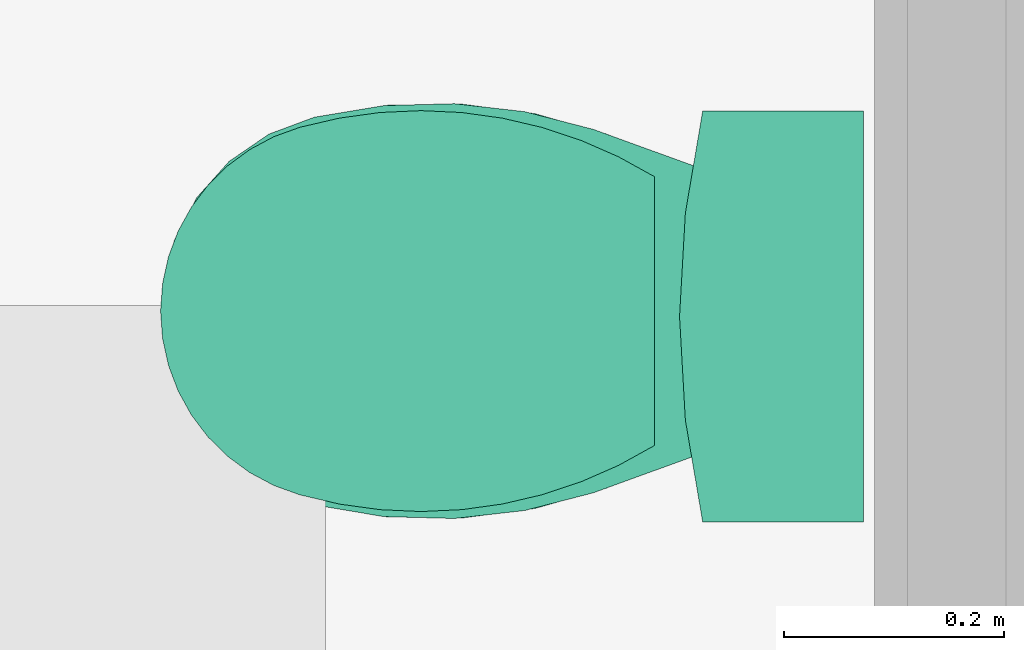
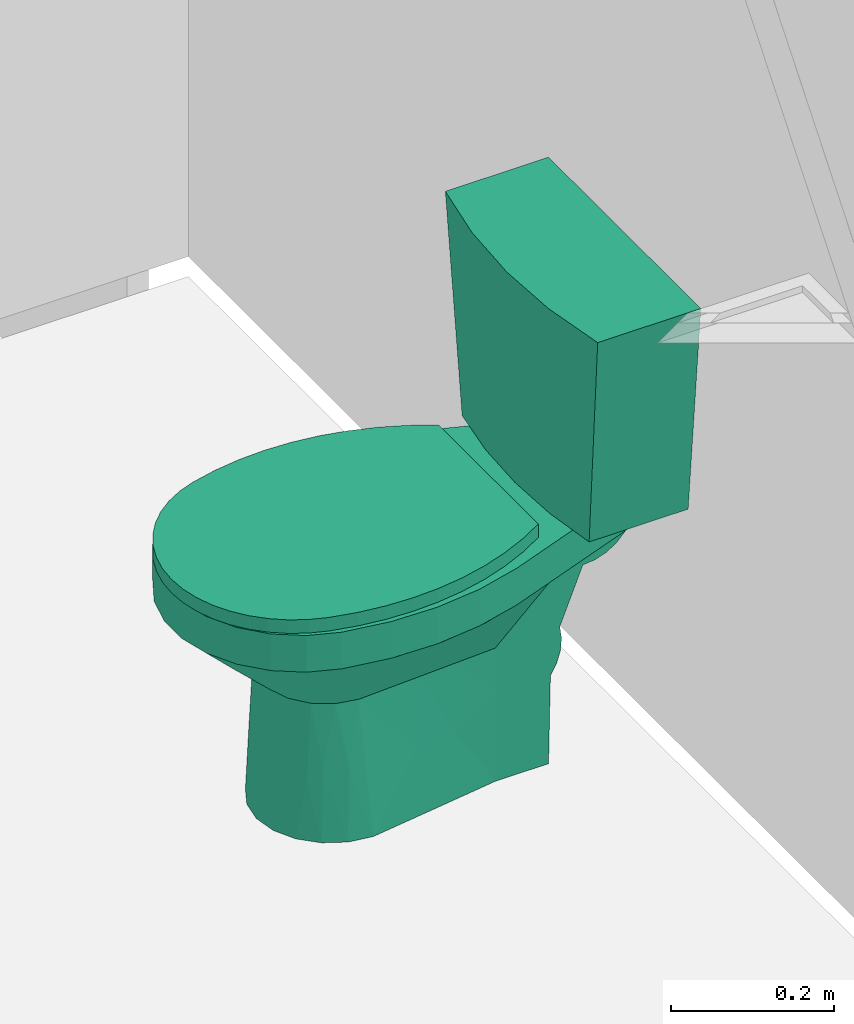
# One storey, part 65 of 155: 3 flow terminals.
"""IFC2X3 building model written with IfcOpenShell, lengths in metres."""

from ifc_helpers import new_model, entity, si_unit, converted_unit, derived_unit, direction, frame, frame_2d, origin, place, context, subcontext, project, spatial, polyline, circle_curve, parameter, trimmed, segment, composite_curve, outline, extrude, faceted_brep, source, transform, mapped, material, element, save


model = new_model("IFC2X3")

# Units and contexts
model_context = context("Model", 3, precision=1e-05, world=origin(), true_north=direction((6.12303176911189e-17, 1.0)))
body_context = subcontext(model_context, "Body", "Model", "MODEL_VIEW")
ifc_project = project(units=[si_unit("LENGTHUNIT", "METRE"), si_unit("AREAUNIT", "SQUARE_METRE"), si_unit("VOLUMEUNIT", "CUBIC_METRE"), converted_unit("PLANEANGLEUNIT", "DEGREE", entity("IfcRatioMeasure", 0.0174532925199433), si_unit("PLANEANGLEUNIT", "RADIAN"), dimensions=[0, 0, 0, 0, 0, 0, 0]), si_unit("MASSUNIT", "GRAM", prefix="KILO"), derived_unit("MASSDENSITYUNIT", [(si_unit("MASSUNIT", "GRAM", prefix="KILO"), 1), (si_unit("LENGTHUNIT", "METRE"), -3)]), si_unit("TIMEUNIT", "SECOND"), si_unit("FREQUENCYUNIT", "HERTZ"), si_unit("THERMODYNAMICTEMPERATUREUNIT", "DEGREE_CELSIUS"), derived_unit("THERMALTRANSMITTANCEUNIT", [(si_unit("MASSUNIT", "GRAM", prefix="KILO"), 1), (si_unit("THERMODYNAMICTEMPERATUREUNIT", "KELVIN"), -1), (si_unit("TIMEUNIT", "SECOND"), -3)]), derived_unit("VOLUMETRICFLOWRATEUNIT", [(si_unit("LENGTHUNIT", "METRE"), 3), (si_unit("TIMEUNIT", "SECOND"), -1)]), si_unit("ELECTRICCURRENTUNIT", "AMPERE"), si_unit("ELECTRICVOLTAGEUNIT", "VOLT"), si_unit("POWERUNIT", "WATT"), si_unit("FORCEUNIT", "NEWTON", prefix="KILO"), si_unit("ILLUMINANCEUNIT", "LUX"), si_unit("LUMINOUSFLUXUNIT", "LUMEN"), si_unit("LUMINOUSINTENSITYUNIT", "CANDELA"), derived_unit("USERDEFINED", [(si_unit("MASSUNIT", "GRAM", prefix="KILO"), -1), (si_unit("LENGTHUNIT", "METRE"), -2), (si_unit("TIMEUNIT", "SECOND"), 3), (si_unit("LUMINOUSFLUXUNIT", "LUMEN"), 1)]), derived_unit("LINEARVELOCITYUNIT", [(si_unit("LENGTHUNIT", "METRE"), 1), (si_unit("TIMEUNIT", "SECOND"), -1)]), si_unit("PRESSUREUNIT", "PASCAL"), derived_unit("USERDEFINED", [(si_unit("LENGTHUNIT", "METRE"), -2), (si_unit("MASSUNIT", "GRAM", prefix="KILO"), 1), (si_unit("TIMEUNIT", "SECOND"), -2)])], contexts=[model_context])

# Site, building, storey, space
site_placement = place(None, frame((26.9889013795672, -17.5624287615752, 0.0)))
site = spatial("IfcSite", under=ifc_project, at=site_placement, Name="Default", CompositionType="ELEMENT")
building_placement = place(site_placement, origin())
building = spatial("IfcBuilding", under=site, at=building_placement, Name="C. C. L. Monsenhor Antônio Sampaio", CompositionType="ELEMENT")
storey_placement = place(building_placement, frame((0.0, 0.0, 1.19999999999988)))
storey = spatial("IfcBuildingStorey", under=building, at=storey_placement, Name="Nível 1.2", CompositionType="ELEMENT", Elevation=1.19999999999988)
space_placement = place(storey_placement, origin())
space = spatial("IfcSpace", under=storey, at=space_placement, Name="86", CompositionType="ELEMENT", InteriorOrExteriorSpace="INTERNAL")

# Flow terminals
ifc_material_1 = material(Name="Deca CR37 Creme Cerâmica")
shared_shape_1 = source(origin(), body_context, "Body", "Brep", [
    faceted_brep([(0.268160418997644, 0.068263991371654, 0.193201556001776), (0.268160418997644, 0.00159527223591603, 0.1938965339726), (0.268160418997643, 0.00159527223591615, 0.118207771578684), (0.268160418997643, 0.132881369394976, 0.11554487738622), (0.268160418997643, 0.1485359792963, 0.10659475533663), (0.268160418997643, 0.165757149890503, 0.101246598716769), (0.268160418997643, 0.183727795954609, 0.0997541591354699), (0.268160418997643, 0.201595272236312, 0.102188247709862), (0.268160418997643, 0.282841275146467, 0.0693627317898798), (0.268160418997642, 0.284385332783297, 0.0523178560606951), (0.268160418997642, 0.289960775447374, 0.0361368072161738), (0.268160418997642, 0.299244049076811, 0.0217586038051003), (0.268160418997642, 0.311696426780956, 0.0100176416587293), (0.268160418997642, 0.326595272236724, 0.001595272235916), (0.268160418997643, 0.326595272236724, 0.140707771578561), (0.268160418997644, 0.201595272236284, 0.193896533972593), (0.268160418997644, 0.134935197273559, 0.192953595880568), (0.113406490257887, 0.284385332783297, 0.0523178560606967), (0.113406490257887, 0.282841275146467, 0.0693627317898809), (0.113406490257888, 0.201595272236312, 0.102188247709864), (0.113406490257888, 0.183727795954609, 0.0997541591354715), (0.113406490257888, 0.165757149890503, 0.101246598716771), (0.113406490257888, 0.1485359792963, 0.106594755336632), (0.113406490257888, 0.132881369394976, 0.115544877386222), (0.113406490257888, 0.00159527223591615, 0.118207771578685), (0.113406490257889, 0.00159527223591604, 0.193896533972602), (0.113406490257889, 0.0682618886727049, 0.194043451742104), (0.113406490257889, 0.134928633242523, 0.194094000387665), (0.113406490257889, 0.201595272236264, 0.193896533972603), (0.113406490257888, 0.326595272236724, 0.140707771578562), (0.113406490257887, 0.326595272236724, 0.00159527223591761), (0.113406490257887, 0.311696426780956, 0.0100176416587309), (0.113406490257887, 0.299244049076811, 0.0217586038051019), (0.113406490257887, 0.289960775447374, 0.0361368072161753), (0.105407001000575, 0.00159527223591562, 0.444568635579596), (0.0904656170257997, 0.00159527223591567, 0.415244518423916), (0.085317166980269, 0.00159527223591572, 0.382738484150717), (0.0979976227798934, 0.00159527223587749, 0.297541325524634), (0.105710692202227, 0.00159527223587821, 0.24571892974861), (0.281970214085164, 0.00159527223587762, 0.288317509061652), (0.295700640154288, 0.00159527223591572, 0.382738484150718), (0.290552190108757, 0.00159527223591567, 0.415244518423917), (0.275610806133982, 0.00159527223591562, 0.444568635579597), (0.252339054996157, 0.00159527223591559, 0.467840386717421), (0.223014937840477, 0.00159527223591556, 0.482781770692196), (0.206761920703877, 0.00159527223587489, 0.485355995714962), (0.190508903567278, 0.00159527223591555, 0.487930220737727), (0.158002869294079, 0.00159527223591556, 0.482781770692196), (0.128678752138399, 0.00159527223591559, 0.467840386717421), (0.27929222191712, 0.201595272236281, 0.393896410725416), (0.274335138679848, 0.201595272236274, 0.304195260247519), (0.271287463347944, 0.201595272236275, 0.249045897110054), (0.107574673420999, 0.201595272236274, 0.293896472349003), (0.104935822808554, 0.201595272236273, 0.339012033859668), (0.101725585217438, 0.201595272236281, 0.393896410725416), (0.107910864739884, 0.201595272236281, 0.423407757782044), (0.123610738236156, 0.20159527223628, 0.449150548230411), (0.147016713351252, 0.20159527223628, 0.468159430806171), (0.161224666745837, 0.201595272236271, 0.473202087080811), (0.175432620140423, 0.20159527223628, 0.47824474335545), (0.205585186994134, 0.20159527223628, 0.47824474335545), (0.234001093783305, 0.20159527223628, 0.468159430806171), (0.245704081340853, 0.201595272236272, 0.458654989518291), (0.257407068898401, 0.20159527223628, 0.449150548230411), (0.273106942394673, 0.201595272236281, 0.423407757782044), (0.098784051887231, 0.0914531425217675, 0.330769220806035), (0.105110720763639, 0.09802538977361, 0.273844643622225), (0.0934222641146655, 0.100387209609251, 0.388250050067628), (0.0953872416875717, 0.124338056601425, 0.389586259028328), (0.274339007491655, 0.102339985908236, 0.255685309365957), (0.280137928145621, 0.0987925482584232, 0.312510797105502), (0.285630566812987, 0.124338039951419, 0.389586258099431), (0.287496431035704, 0.101595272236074, 0.388317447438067), (0.0966193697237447, 0.106555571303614, 0.409632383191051), (0.121774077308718, 0.0904895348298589, 0.45601571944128), (0.109893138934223, 0.110328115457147, 0.439731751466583), (0.233838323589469, 0.0897522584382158, 0.474126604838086), (0.271124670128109, 0.110328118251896, 0.4397317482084), (0.259243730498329, 0.0904895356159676, 0.456015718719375), (0.165732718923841, 0.104768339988, 0.480372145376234), (0.284398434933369, 0.106555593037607, 0.40963238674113), (0.137585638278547, 0.102665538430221, 0.46796088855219), (0.212957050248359, 0.100008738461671, 0.481168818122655), (0.186508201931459, 0.111859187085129, 0.483217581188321)], [[[0, 1, 2, 3, 4, 5, 6, 7, 8, 9, 10, 11, 12, 13, 14, 15, 16]], [[17, 18, 19, 20, 21, 22, 23, 24, 25, 26, 27, 28, 29, 30, 31, 32, 33]], [[14, 13, 30, 29]], [[34, 35, 36, 37, 38, 25, 24, 2, 1, 39, 40, 41, 42, 43, 44, 45, 46, 47, 48]], [[3, 2, 24, 23]], [[3, 23, 22, 4]], [[4, 22, 21, 5]], [[20, 19, 7, 6]], [[20, 6, 5, 21]], [[8, 7, 19, 18]], [[8, 18, 17, 9]], [[9, 17, 33, 10]], [[33, 32, 11, 10]], [[11, 32, 31, 12]], [[12, 31, 30, 13]], [[15, 14, 29, 28]], [[49, 50, 51, 15, 28, 52, 53, 54, 55, 56, 57, 58, 59, 60, 61, 62, 63, 64]], [[65, 53, 52]], [[66, 65, 52]], [[27, 66, 28]], [[37, 66, 38]], [[36, 67, 65]], [[53, 67, 68, 54]], [[26, 25, 38]], [[26, 38, 66]], [[66, 52, 28]], [[27, 26, 66]], [[65, 66, 37]], [[36, 65, 37]], [[53, 65, 67]], [[39, 1, 69]], [[40, 39, 70]], [[69, 0, 16]], [[1, 0, 69]], [[70, 49, 71, 72, 40]], [[49, 70, 50]], [[70, 39, 69]], [[70, 69, 50]], [[16, 51, 69]], [[51, 16, 15]], [[51, 50, 69]], [[54, 73, 55]], [[36, 35, 73]], [[74, 34, 48]], [[75, 74, 56]], [[61, 76, 62]], [[75, 35, 34]], [[77, 78, 42]], [[79, 59, 58]], [[73, 54, 68, 67, 36]], [[80, 40, 72, 71, 49]], [[74, 75, 34]], [[56, 74, 81]], [[47, 81, 48]], [[81, 74, 48]], [[47, 79, 81]], [[75, 55, 73]], [[81, 79, 58]], [[56, 55, 75]], [[82, 76, 61]], [[44, 43, 76]], [[41, 80, 77]], [[45, 82, 83]], [[82, 61, 60]], [[43, 42, 78]], [[83, 82, 60]], [[49, 64, 80]], [[44, 82, 45]], [[82, 44, 76]], [[46, 83, 79]], [[83, 59, 79]], [[78, 76, 43]], [[77, 63, 78]], [[83, 46, 45]], [[46, 79, 47]], [[57, 81, 58]], [[60, 59, 83]], [[62, 76, 78]], [[62, 78, 63]], [[56, 81, 57]], [[41, 77, 42]], [[64, 63, 77]], [[75, 73, 35]], [[77, 80, 64]], [[40, 80, 41]]]),
    faceted_brep([(0.102206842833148, 0.326595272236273, 0.00159527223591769), (0.278810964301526, 0.326595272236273, 0.0015952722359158), (0.356018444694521, 0.32659527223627, 0.214136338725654), (0.37213908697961, 0.326595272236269, 0.276529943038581), (0.379422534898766, 0.326595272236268, 0.340559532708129), (0.377727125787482, 0.326595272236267, 0.404979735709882), (0.367085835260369, 0.326595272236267, 0.468537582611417), (0.351716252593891, 0.326595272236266, 0.509738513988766), (0.326893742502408, 0.326595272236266, 0.546037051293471), (0.294073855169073, 0.326595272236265, 0.575304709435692), (0.2551810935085, 0.326595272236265, 0.595825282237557), (0.212496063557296, 0.326595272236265, 0.606395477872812), (0.168521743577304, 0.326595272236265, 0.606395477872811), (0.1258367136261, 0.326595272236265, 0.595825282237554), (0.0869439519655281, 0.326595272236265, 0.575304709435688), (0.0541240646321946, 0.326595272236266, 0.546037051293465), (0.0293015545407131, 0.326595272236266, 0.50973851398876), (0.0139319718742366, 0.326595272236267, 0.468537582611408), (0.00329068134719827, 0.326595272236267, 0.404979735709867), (0.001595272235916, 0.326595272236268, 0.340559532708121), (0.00887872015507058, 0.326595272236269, 0.276529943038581), (0.0249993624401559, 0.32659527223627, 0.214136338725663), (0.212496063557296, 0.381595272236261, 0.606395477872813), (0.2551810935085, 0.381595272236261, 0.595825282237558), (0.294073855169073, 0.381595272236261, 0.575304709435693), (0.326893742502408, 0.381595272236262, 0.546037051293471), (0.351716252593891, 0.381595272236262, 0.509738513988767), (0.367085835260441, 0.381595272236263, 0.468537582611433), (0.377727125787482, 0.381595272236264, 0.404979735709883), (0.379422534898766, 0.381595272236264, 0.340559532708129), (0.37213908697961, 0.381595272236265, 0.276529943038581), (0.356018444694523, 0.381595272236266, 0.21413633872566), (0.278810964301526, 0.381595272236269, 0.00159527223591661), (0.102206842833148, 0.381595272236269, 0.00159527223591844), (0.0249993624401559, 0.381595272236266, 0.214136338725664), (0.00887872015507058, 0.381595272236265, 0.276529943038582), (0.001595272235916, 0.381595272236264, 0.340559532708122), (0.00329068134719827, 0.381595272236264, 0.404979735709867), (0.0139319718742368, 0.381595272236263, 0.46853758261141), (0.0293015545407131, 0.381595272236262, 0.50973851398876), (0.0541240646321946, 0.381595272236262, 0.546037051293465), (0.0869439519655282, 0.381595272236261, 0.575304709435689), (0.1258367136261, 0.381595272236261, 0.595825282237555), (0.168521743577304, 0.381595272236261, 0.606395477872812)], [[[0, 1, 2, 3, 4, 5, 6, 7, 8, 9, 10, 11, 12, 13, 14, 15, 16, 17, 18, 19, 20, 21]], [[22, 23, 24, 25, 26, 27, 28, 29, 30, 31, 32, 33, 34, 35, 36, 37, 38, 39, 40, 41, 42, 43]], [[0, 21, 34, 33]], [[1, 0, 33, 32]], [[2, 1, 32, 31]], [[30, 29, 4, 3]], [[30, 3, 2, 31]], [[28, 27, 6, 5]], [[28, 5, 4, 29]], [[26, 7, 6, 27]], [[25, 8, 7, 26]], [[10, 9, 24, 23]], [[25, 24, 9, 8]], [[11, 10, 23, 22]], [[22, 43, 12, 11]], [[42, 41, 14, 13]], [[43, 42, 13, 12]], [[15, 40, 39, 16]], [[40, 15, 14, 41]], [[16, 39, 38, 17]], [[37, 36, 19, 18]], [[37, 18, 17, 38]], [[35, 34, 21, 20]], [[35, 20, 19, 36]]]),
    faceted_brep([(0.370336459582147, 0.326595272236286, 0.267316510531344), (0.351889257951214, 0.326595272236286, 0.202319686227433), (0.324160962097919, 0.326595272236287, 0.140707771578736), (0.0568568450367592, 0.326595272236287, 0.140707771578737), (0.0291285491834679, 0.326595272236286, 0.202319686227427), (0.0106813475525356, 0.326595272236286, 0.267316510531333), (0.00190963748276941, 0.326595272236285, 0.334308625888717), (0.00300095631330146, 0.326595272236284, 0.401863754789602), (0.0139319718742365, 0.326595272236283, 0.468537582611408), (0.0293015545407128, 0.326595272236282, 0.509738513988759), (0.0541240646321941, 0.326595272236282, 0.546037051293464), (0.0869439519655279, 0.326595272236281, 0.575304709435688), (0.1258367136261, 0.326595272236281, 0.595825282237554), (0.168521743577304, 0.326595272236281, 0.606395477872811), (0.212496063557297, 0.326595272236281, 0.606395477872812), (0.255181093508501, 0.326595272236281, 0.595825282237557), (0.294073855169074, 0.326595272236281, 0.575304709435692), (0.326893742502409, 0.326595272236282, 0.546037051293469), (0.351716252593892, 0.326595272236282, 0.509738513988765), (0.36708583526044, 0.326595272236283, 0.468537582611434), (0.378016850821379, 0.326595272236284, 0.401863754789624), (0.379108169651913, 0.326595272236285, 0.334308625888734), (0.11342376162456, 0.201595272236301, 0.193896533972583), (0.268239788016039, 0.201595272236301, 0.193896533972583), (0.271002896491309, 0.201595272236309, 0.243896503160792), (0.273766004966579, 0.201595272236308, 0.293896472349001), (0.276529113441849, 0.201595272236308, 0.34389644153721), (0.27929222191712, 0.201595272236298, 0.39389641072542), (0.273106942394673, 0.201595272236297, 0.423407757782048), (0.2574070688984, 0.201595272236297, 0.449150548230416), (0.245704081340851, 0.201595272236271, 0.458654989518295), (0.234001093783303, 0.201595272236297, 0.468159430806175), (0.20558518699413, 0.201595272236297, 0.478244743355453), (0.175432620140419, 0.201595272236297, 0.478244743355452), (0.147016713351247, 0.201595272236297, 0.468159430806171), (0.1353137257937, 0.201595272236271, 0.45865498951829), (0.123610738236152, 0.201595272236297, 0.449150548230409), (0.107910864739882, 0.201595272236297, 0.42340775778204), (0.101725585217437, 0.201595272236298, 0.393896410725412), (0.104650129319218, 0.201595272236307, 0.343896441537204), (0.107574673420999, 0.201595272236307, 0.293896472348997), (0.11049921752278, 0.201595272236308, 0.24389650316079), (0.0897553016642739, 0.253897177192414, 0.171641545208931), (0.0733060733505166, 0.290246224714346, 0.156174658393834), (0.307908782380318, 0.290266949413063, 0.15616583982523), (0.291656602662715, 0.253938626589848, 0.17162390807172), (0.319208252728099, 0.272102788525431, 0.227274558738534), (0.29696767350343, 0.2335483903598, 0.266380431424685), (0.301825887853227, 0.233548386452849, 0.324994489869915), (0.326006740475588, 0.265501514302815, 0.297350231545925), (0.334403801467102, 0.2721027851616, 0.369343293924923), (0.292104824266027, 0.236338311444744, 0.219552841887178), (0.341570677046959, 0.290266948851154, 0.446844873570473), (0.335161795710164, 0.281142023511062, 0.441396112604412), (0.316055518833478, 0.253938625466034, 0.425152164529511), (0.30510677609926, 0.236338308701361, 0.372928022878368), (0.0467077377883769, 0.27207170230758, 0.369338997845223), (0.0649913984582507, 0.253897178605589, 0.425127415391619), (0.0458560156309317, 0.281142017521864, 0.441396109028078), (0.0394616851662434, 0.290246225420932, 0.446832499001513), (0.0793721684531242, 0.233548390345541, 0.324994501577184), (0.084350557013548, 0.233548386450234, 0.266380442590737), (0.0551688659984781, 0.26550151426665, 0.297350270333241), (0.0620458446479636, 0.272071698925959, 0.227275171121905), (0.0759980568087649, 0.236332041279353, 0.372914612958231), (0.089299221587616, 0.236332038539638, 0.219565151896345), (0.0711556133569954, 0.253109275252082, 0.447531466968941), (0.0730163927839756, 0.268794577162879, 0.482893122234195), (0.224981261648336, 0.266780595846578, 0.541965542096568), (0.190508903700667, 0.260738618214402, 0.540189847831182), (0.130559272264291, 0.266252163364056, 0.531942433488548), (0.10885067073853, 0.267953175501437, 0.520707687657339), (0.309862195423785, 0.253109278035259, 0.447531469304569), (0.15603654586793, 0.266780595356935, 0.541965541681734), (0.0912929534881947, 0.265794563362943, 0.502321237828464), (0.250458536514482, 0.266252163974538, 0.531942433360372), (0.308001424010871, 0.268794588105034, 0.482893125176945), (0.289724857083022, 0.265794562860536, 0.50232123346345), (0.272167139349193, 0.26795317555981, 0.520707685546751)], [[[0, 1, 2, 3, 4, 5, 6, 7, 8, 9, 10, 11, 12, 13, 14, 15, 16, 17, 18, 19, 20, 21]], [[22, 23, 24, 25, 26, 27, 28, 29, 30, 31, 32, 33, 34, 35, 36, 37, 38, 39, 40, 41]], [[22, 42, 43, 3, 2, 44, 45, 23]], [[44, 46, 45]], [[25, 47, 48]], [[49, 0, 21]], [[20, 50, 21]], [[1, 46, 44]], [[51, 46, 47]], [[47, 46, 49]], [[50, 52, 53, 54]], [[26, 25, 48]], [[1, 0, 46]], [[44, 2, 1]], [[55, 27, 26]], [[26, 48, 55]], [[0, 49, 46]], [[52, 50, 20]], [[20, 19, 52]], [[50, 49, 21]], [[24, 47, 25]], [[45, 51, 23]], [[47, 24, 51]], [[48, 47, 49]], [[23, 51, 24]], [[46, 51, 45]], [[49, 50, 48]], [[55, 50, 54]], [[50, 55, 48]], [[27, 55, 54]], [[56, 57, 58, 59]], [[40, 60, 61]], [[62, 6, 5]], [[4, 63, 5]], [[7, 56, 59]], [[64, 56, 60]], [[60, 56, 62]], [[42, 63, 43]], [[41, 40, 61]], [[7, 6, 56]], [[59, 8, 7]], [[65, 22, 41]], [[41, 61, 65]], [[6, 62, 56]], [[43, 63, 4]], [[4, 3, 43]], [[63, 62, 5]], [[39, 60, 40]], [[57, 64, 38]], [[60, 39, 64]], [[61, 60, 62]], [[38, 64, 39]], [[56, 64, 57]], [[62, 63, 61]], [[65, 63, 42]], [[63, 65, 61]], [[22, 65, 42]], [[66, 37, 67]], [[68, 69, 32]], [[35, 70, 71]], [[72, 27, 54, 53]], [[69, 73, 33]], [[74, 67, 36]], [[27, 72, 28]], [[73, 34, 33]], [[33, 32, 69]], [[37, 66, 38]], [[9, 67, 10]], [[9, 8, 59, 58]], [[10, 67, 74]], [[73, 70, 34]], [[69, 68, 14]], [[18, 53, 52, 19]], [[73, 13, 12]], [[11, 74, 71]], [[13, 73, 69]], [[12, 11, 70]], [[31, 75, 68]], [[76, 17, 77]], [[29, 28, 76]], [[11, 10, 74]], [[35, 71, 36]], [[78, 30, 29]], [[70, 35, 34]], [[73, 12, 70]], [[68, 15, 14]], [[75, 15, 68]], [[16, 15, 75]], [[29, 77, 78]], [[77, 29, 76]], [[76, 18, 17]], [[9, 66, 67]], [[36, 67, 37]], [[18, 76, 72]], [[66, 9, 58]], [[66, 58, 57, 38]], [[14, 13, 69]], [[72, 76, 28]], [[31, 68, 32]], [[18, 72, 53]], [[17, 16, 77]], [[75, 31, 30]], [[78, 77, 16]], [[71, 74, 36]], [[70, 11, 71]], [[16, 75, 78]], [[30, 78, 75]]]),
])
flow_terminal_1_placement = place(space_placement, frame((3.68765548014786, -29.3475574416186, -0.00159527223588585), z_axis=(-1.0, 0.0, 0.0), x_axis=(0.0, -1.0, 0.0)))
element("IfcFlowTerminal", 1, at=flow_terminal_1_placement, inside=space, material=ifc_material_1, Name="Bacia para Caixa Acoplada:P.750_Creme CR37_Acionamento Simples 6lpf", ObjectType="P.750_Creme CR37_Acionamento Simples 6lpf", context=body_context, shape_type="MappedRepresentation", body=[
    mapped(shared_shape_1, transform((0.0, 0.0, 0.0), scale=1.0)),
])
ifc_material_2 = material(Name="Deca GE17 Branco Gelo Plástico")
shared_shape_2 = source(origin(), body_context, "Body", "SweptSolid", [
    extrude(outline(composite_curve([segment(trimmed(circle_curve(frame_2d((-0.195877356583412, 0.120829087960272), x_axis=(1.0, 0.0)), 0.406949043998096), [parameter(309.687623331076)], [parameter(356.917468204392)], True, "PARAMETER"), True, "CONTINUOUS"), segment(trimmed(circle_curve(frame_2d((0.0368457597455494, 0.108296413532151), x_axis=(-0.946706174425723, 0.322098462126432)), 0.173888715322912), [parameter(195.707346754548)], [parameter(344.292653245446)], True, "PARAMETER"), True, "CONTINUOUS"), segment(trimmed(circle_curve(frame_2d((0.2289232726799, -0.0237011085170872), x_axis=(-0.792505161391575, 0.609865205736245)), 0.406949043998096), [parameter(3.08253179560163)], [parameter(50.3123766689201)], True, "PARAMETER"), True, "CONTINUOUS"), segment(polyline([(-0.168018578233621, -0.113393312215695), (0.0640009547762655, -0.19233346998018)]), True, "CONTINUOUS")], self_intersect=False)), frame((0.0, 0.00078451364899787, 0.151312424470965), z_axis=(0.0, 1.0, 0.0), x_axis=(-0.946706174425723, 0.0, 0.322098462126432)), (0.0, 0.0, 1.0), 0.0202797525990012),
])
flow_terminal_2_placement = place(space_placement, frame((3.51882270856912, -29.5380663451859, 0.380000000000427), z_axis=(-1.0, 0.0, 0.0), x_axis=(0.0, -1.0, 0.0)))
element("IfcFlowTerminal", 2, at=flow_terminal_2_placement, inside=space, material=ifc_material_2, Name="Assento para Bacia Sanitária:Assento para Bacia Sanitária", ObjectType="Assento para Bacia Sanitária", context=body_context, shape_type="MappedRepresentation", body=[
    mapped(shared_shape_2, transform((0.0, 0.0, 0.0), scale=1.0)),
])
shared_shape_3 = source(origin(), body_context, "Body", "Brep", [
    faceted_brep([(0.156041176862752, 0.0, 0.140537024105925), (0.0783916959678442, 0.0, 0.151956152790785), (0.0, 0.0, 0.155774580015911), (-0.0783916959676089, 0.0, 0.151956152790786), (-0.156041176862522, 0.0, 0.140537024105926), (-0.156041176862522, 0.0, 0.0), (0.156041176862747, 0.0, 0.0), (0.187262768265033, 0.320000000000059, 0.146391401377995), (0.187262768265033, 0.320000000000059, 0.0), (-0.187262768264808, 0.320000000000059, 0.0), (-0.187262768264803, 0.320000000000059, 0.146391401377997), (-0.0942242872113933, 0.320000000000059, 0.162205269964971), (0.0, 0.320000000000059, 0.167498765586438), (0.0942242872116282, 0.320000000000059, 0.16220526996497), (-0.171038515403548, 0.153712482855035, 0.143349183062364), (0.172265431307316, 0.166287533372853, 0.143579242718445), (0.107419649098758, 0.153032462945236, 0.154306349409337), (0.0432143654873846, 0.160000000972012, 0.160496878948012), (-0.0432143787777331, 0.160000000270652, 0.160496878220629), (-0.108279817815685, 0.16696754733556, 0.154716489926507)], [[[0, 1, 2, 3, 4, 5, 6]], [[7, 8, 9, 10, 11, 12, 13]], [[9, 5, 4, 14, 10]], [[6, 8, 7, 15, 0]], [[5, 9, 8, 6]], [[0, 15, 7, 16]], [[13, 16, 7]], [[13, 12, 17]], [[16, 13, 17]], [[16, 17, 1]], [[18, 17, 12]], [[17, 2, 1]], [[19, 18, 11]], [[3, 19, 4]], [[10, 19, 11]], [[11, 18, 12]], [[18, 19, 3]], [[0, 16, 1]], [[2, 17, 18]], [[10, 14, 4, 19]], [[2, 18, 3]]]),
])
flow_terminal_3_placement = place(space_placement, frame((3.7194477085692, -29.5430663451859, 0.380000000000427), z_axis=(-1.0, 0.0, 0.0), x_axis=(0.0, -1.0, 0.0)))
element("IfcFlowTerminal", 3, at=flow_terminal_3_placement, inside=space, material=ifc_material_1, Name="Caixa de Descarga Acoplada:Caixa de Descarga Acoplada", ObjectType="Caixa de Descarga Acoplada", context=body_context, shape_type="MappedRepresentation", body=[
    mapped(shared_shape_3, transform((0.0, 0.0, 0.0), scale=1.0)),
])

save(model, "model.ifc")
